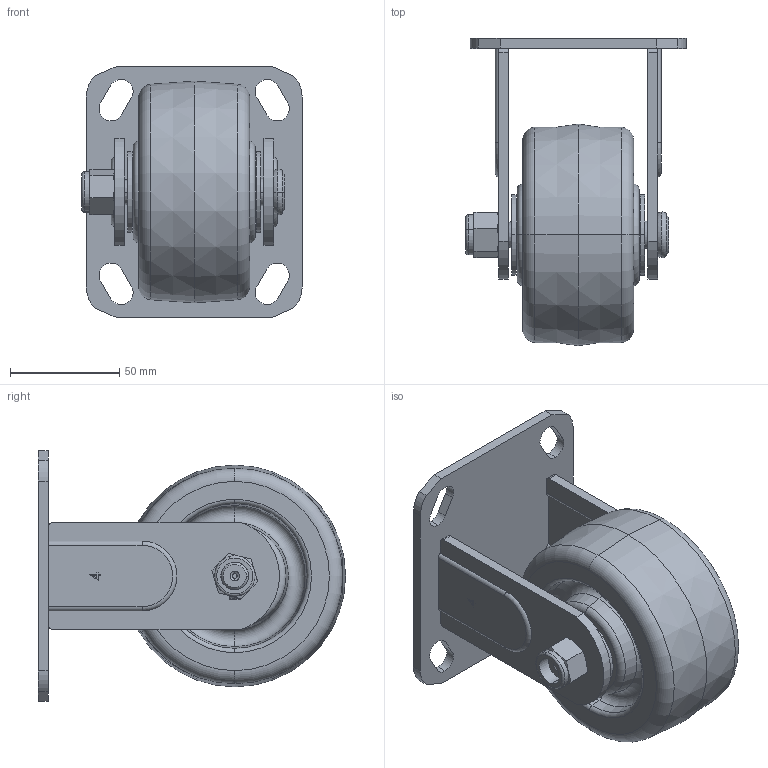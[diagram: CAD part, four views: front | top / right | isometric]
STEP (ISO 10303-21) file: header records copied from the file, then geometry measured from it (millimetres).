
FILE_DESCRIPTION (( 'STEP AP203' ), '1' );
FILE_NAME ('4111204001003-7.STEP', '2025-07-21T00:07:03', ( '' ), ( '' ), 'SwSTEP 2.0', 'SolidWorks 2019', '' );
FILE_SCHEMA (( 'CONFIG_CONTROL_DESIGN' ));
Length unit declared in the file: metre
Products named in the file (1): 4111204001003-7
Bounding box: 101 x 140.8 x 115 mm (x, y, z)
Surface area: 84818.8 mm2 (no closed solid volume)
Topology: 0 solids, 11 shells, 148 faces, 452 edges, 316 vertices
Faces by surface type: plane 58, cylinder 42, torus 26, cone 22
Entity records: 5291 total; most frequent: CARTESIAN_POINT 1043, DIRECTION 934, ORIENTED_EDGE 776, EDGE_CURVE 452, AXIS2_PLACEMENT_3D 351, VERTEX_POINT 316, VECTOR 232, LINE 232
